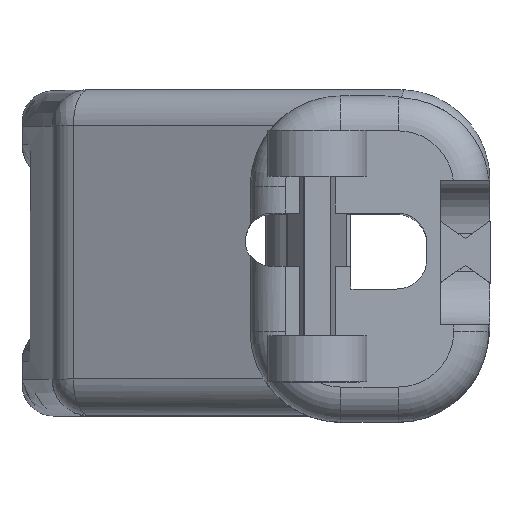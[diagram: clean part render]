
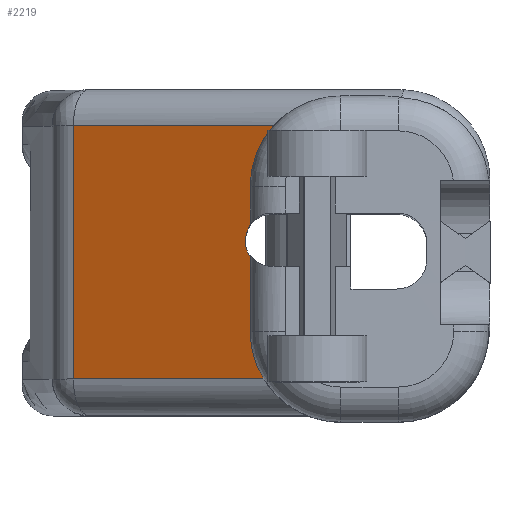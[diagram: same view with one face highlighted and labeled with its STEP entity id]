
A CAD part, top view. The second image highlights one B-rep face of the part: STEP entity #2219.
In plain terms, the highlighted planar face has unit normal (-0.412, 0, 0.911).
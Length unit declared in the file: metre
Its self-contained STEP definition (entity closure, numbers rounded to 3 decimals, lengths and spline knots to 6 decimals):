
#25=ELLIPSE('',#2375,0.001659,0.001512);
#26=ELLIPSE('',#2377,0.005608,0.005109);
#27=ELLIPSE('',#2379,0.005608,0.005109);
#28=ELLIPSE('',#2416,0.001616,0.001473);
#65=PLANE('',#2415);
#600=ORIENTED_EDGE('',*,*,#1117,.F.);
#601=ORIENTED_EDGE('',*,*,#1054,.T.);
#602=ORIENTED_EDGE('',*,*,#1067,.T.);
#603=ORIENTED_EDGE('',*,*,#1115,.T.);
#604=ORIENTED_EDGE('',*,*,#1118,.T.);
#605=ORIENTED_EDGE('',*,*,#1099,.T.);
#606=ORIENTED_EDGE('',*,*,#1070,.T.);
#607=ORIENTED_EDGE('',*,*,#1057,.T.);
#608=ORIENTED_EDGE('',*,*,#1065,.F.);
#1054=EDGE_CURVE('',#1352,#1353,#1554,.T.);
#1057=EDGE_CURVE('',#1356,#1355,#1557,.T.);
#1065=EDGE_CURVE('',#1359,#1355,#25,.F.);
#1067=EDGE_CURVE('',#1353,#1360,#26,.T.);
#1070=EDGE_CURVE('',#1362,#1356,#27,.T.);
#1099=EDGE_CURVE('',#1378,#1362,#1576,.F.);
#1115=EDGE_CURVE('',#1360,#1389,#1583,.F.);
#1117=EDGE_CURVE('',#1352,#1359,#28,.F.);
#1118=EDGE_CURVE('',#1389,#1378,#1584,.T.);
#1352=VERTEX_POINT('',#3479);
#1353=VERTEX_POINT('',#3482);
#1355=VERTEX_POINT('',#3488);
#1356=VERTEX_POINT('',#3490);
#1359=VERTEX_POINT('',#3511);
#1360=VERTEX_POINT('',#3516);
#1362=VERTEX_POINT('',#3526);
#1378=VERTEX_POINT('',#3605);
#1389=VERTEX_POINT('',#3651);
#1554=LINE('',#3483,#1760);
#1557=LINE('',#3489,#1763);
#1576=LINE('',#3604,#1782);
#1583=LINE('',#3652,#1789);
#1584=LINE('',#3657,#1790);
#1760=VECTOR('',#2767,1.);
#1763=VECTOR('',#2772,1.);
#1782=VECTOR('',#2857,1.);
#1789=VECTOR('',#2882,1.);
#1790=VECTOR('',#2891,1.);
#1931=EDGE_LOOP('',(#600,#601,#602,#603,#604,#605,#606,#607,#608));
#2063=FACE_BOUND('',#1931,.T.);
#2219=ADVANCED_FACE('',(#2063),#65,.F.);
#2375=AXIS2_PLACEMENT_3D('',#3512,#2785,#2786);
#2377=AXIS2_PLACEMENT_3D('',#3515,#2790,#2791);
#2379=AXIS2_PLACEMENT_3D('',#3525,#2795,#2796);
#2415=AXIS2_PLACEMENT_3D('',#3655,#2887,#2888);
#2416=AXIS2_PLACEMENT_3D('',#3656,#2889,#2890);
#2767=DIRECTION('',(0.,1.,0.));
#2772=DIRECTION('',(0.,1.,0.));
#2785=DIRECTION('',(0.412,0.,-0.911));
#2786=DIRECTION('',(0.911,0.,0.412));
#2790=DIRECTION('',(0.412,0.,-0.911));
#2791=DIRECTION('',(-0.911,0.,-0.412));
#2795=DIRECTION('',(0.412,0.,-0.911));
#2796=DIRECTION('',(-0.911,0.,-0.412));
#2857=DIRECTION('',(-0.911,0.,-0.412));
#2882=DIRECTION('',(0.911,0.,0.412));
#2887=DIRECTION('',(0.412,0.,-0.911));
#2888=DIRECTION('',(-0.911,0.,-0.412));
#2889=DIRECTION('',(0.412,0.,-0.911));
#2890=DIRECTION('',(-0.911,0.,-0.412));
#2891=DIRECTION('',(0.,-1.,0.));
#3479=CARTESIAN_POINT('',(0.020094,-0.024793,0.118305));
#3482=CARTESIAN_POINT('',(0.020094,-0.022655,0.118305));
#3483=CARTESIAN_POINT('',(0.020094,-0.026751,0.118305));
#3488=CARTESIAN_POINT('',(0.020094,-0.026638,0.118305));
#3489=CARTESIAN_POINT('',(0.020094,-0.026751,0.118305));
#3490=CARTESIAN_POINT('',(0.020094,-0.030846,0.118305));
#3511=CARTESIAN_POINT('',(0.019874,-0.025282,0.118205));
#3512=CARTESIAN_POINT('',(0.021313,-0.025744,0.118856));
#3515=CARTESIAN_POINT('',(0.025203,-0.022655,0.120617));
#3516=CARTESIAN_POINT('',(0.021415,-0.019227,0.118902));
#3525=CARTESIAN_POINT('',(0.025203,-0.030846,0.120617));
#3526=CARTESIAN_POINT('',(0.020844,-0.03351,0.118644));
#3604=CARTESIAN_POINT('',(0.01242,-0.03351,0.114833));
#3605=CARTESIAN_POINT('',(0.010101,-0.03351,0.113783));
#3651=CARTESIAN_POINT('',(0.010101,-0.019227,0.113783));
#3652=CARTESIAN_POINT('',(0.01242,-0.019227,0.114833));
#3655=CARTESIAN_POINT('',(0.01242,-0.045981,0.114833));
#3656=CARTESIAN_POINT('',(0.021304,-0.025634,0.118852));
#3657=CARTESIAN_POINT('',(0.010101,-0.03351,0.113783));
